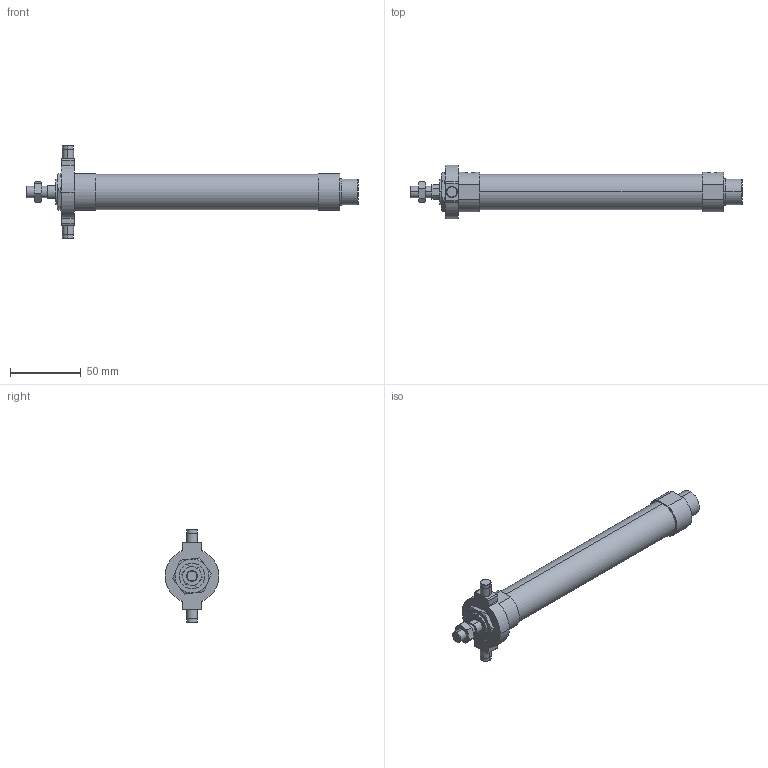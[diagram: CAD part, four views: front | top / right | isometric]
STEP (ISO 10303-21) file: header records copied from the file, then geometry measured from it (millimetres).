
FILE_DESCRIPTION (( 'STEP AP203' ), '1' );
FILE_NAME ('J#2-20-125-T.STEP', '2016-03-08T07:05:06', ( '' ), ( '' ), 'SwSTEP 2.0', 'SolidWorks 2014', '' );
FILE_SCHEMA (( 'CONFIG_CONTROL_DESIGN' ));
Length unit declared in the file: millimetre
Products named in the file (5): J#2-20-T; J#2-20-125; J#2-20-125-T
Assembly tree (4 placements, depth 2):
  J#2-20-125-T
    J#2-20-125
    (unnamed)
    (unnamed)
    J#2-20-T
Bounding box: 234 x 38 x 66 mm (x, y, z)
Volume: 112690.6 mm3; surface area: 24814.2 mm2
Topology: 4 solids, 4 shells, 131 faces, 291 edges, 180 vertices
Faces by surface type: cylinder 47, plane 46, torus 24, cone 14
Entity records: 4496 total; most frequent: CARTESIAN_POINT 1065, DIRECTION 639, ORIENTED_EDGE 582, EDGE_CURVE 291, AXIS2_PLACEMENT_3D 266, VERTEX_POINT 180, EDGE_LOOP 149, ADVANCED_FACE 131
